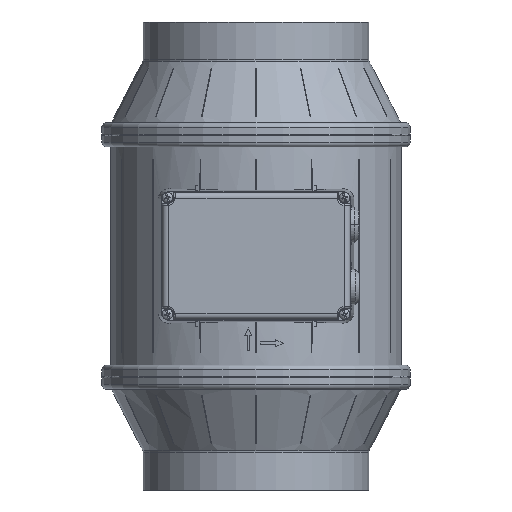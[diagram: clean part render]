
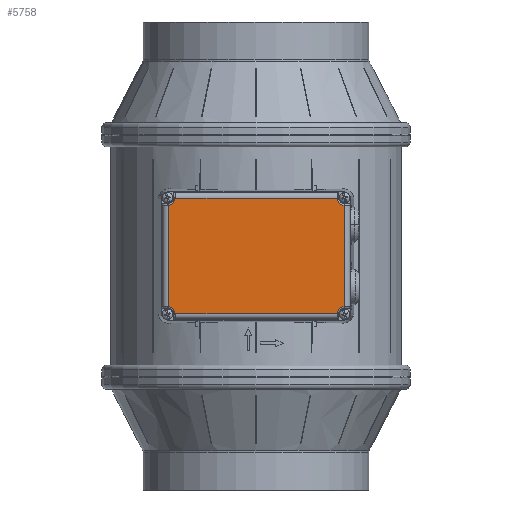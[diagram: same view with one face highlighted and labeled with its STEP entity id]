
A CAD part, front view. The second image highlights one B-rep face of the part: STEP entity #5758.
In plain terms, the highlighted planar face has unit normal (0, -1, 0).
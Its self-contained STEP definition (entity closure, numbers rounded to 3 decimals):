
#5758 = ADVANCED_FACE ( 'NONE', ( #62047 ), #67983, .F. ) ;
#11528 = AXIS2_PLACEMENT_3D ( 'NONE', #46336, #46337, #46338 ) ;
#11604 = AXIS2_PLACEMENT_3D ( 'NONE', #47354, #47355, #47356 ) ;
#17998 = VERTEX_POINT ( 'NONE', #44780 ) ;
#18001 = VERTEX_POINT ( 'NONE', #44783 ) ;
#18022 = VERTEX_POINT ( 'NONE', #44804 ) ;
#19384 = EDGE_CURVE ( 'NONE', #17998, #18001, #35673, .T. ) ;
#19613 = EDGE_CURVE ( 'NONE', #18001, #20283, #35794, .T. ) ;
#19681 = EDGE_CURVE ( 'NONE', #20291, #20300, #35829, .T. ) ;
#19697 = EDGE_CURVE ( 'NONE', #20300, #17998, #35835, .T. ) ;
#19754 = EDGE_CURVE ( 'NONE', #20312, #20291, #35862, .T. ) ;
#19784 = EDGE_CURVE ( 'NONE', #18022, #20312, #35873, .T. ) ;
#19786 = EDGE_CURVE ( 'NONE', #20317, #18022, #35876, .T. ) ;
#19789 = EDGE_CURVE ( 'NONE', #20283, #20317, #35877, .T. ) ;
#20283 = VERTEX_POINT ( 'NONE', #53167 ) ;
#20291 = VERTEX_POINT ( 'NONE', #53181 ) ;
#20300 = VERTEX_POINT ( 'NONE', #53197 ) ;
#20312 = VERTEX_POINT ( 'NONE', #53219 ) ;
#20317 = VERTEX_POINT ( 'NONE', #53229 ) ;
#20696 = EDGE_LOOP ( 'NONE', ( #21089, #21090, #21091, #21092, #21093, #21094, #21095, #21096 ) ) ;
#21089 = ORIENTED_EDGE ( 'NONE', *, *, #19786, .T. ) ;
#21090 = ORIENTED_EDGE ( 'NONE', *, *, #19784, .T. ) ;
#21091 = ORIENTED_EDGE ( 'NONE', *, *, #19754, .T. ) ;
#21092 = ORIENTED_EDGE ( 'NONE', *, *, #19681, .T. ) ;
#21093 = ORIENTED_EDGE ( 'NONE', *, *, #19697, .T. ) ;
#21094 = ORIENTED_EDGE ( 'NONE', *, *, #19384, .T. ) ;
#21095 = ORIENTED_EDGE ( 'NONE', *, *, #19613, .T. ) ;
#21096 = ORIENTED_EDGE ( 'NONE', *, *, #19789, .T. ) ;
#35673 = CIRCLE ( 'NONE', #11528, 5. ) ;
#35794 = LINE ( 'NONE', #47266, #35797 ) ;
#35797 = VECTOR ( 'NONE', #47269, 1000. ) ;
#35829 = CIRCLE ( 'NONE', #11604, 5. ) ;
#35835 = LINE ( 'NONE', #47376, #35838 ) ;
#35838 = VECTOR ( 'NONE', #47377, 1000. ) ;
#35861 = VECTOR ( 'NONE', #47455, 1000. ) ;
#35862 = LINE ( 'NONE', #47454, #35861 ) ;
#35873 = CIRCLE ( 'NONE', #47995, 5. ) ;
#35876 = LINE ( 'NONE', #47482, #35878 ) ;
#35877 = CIRCLE ( 'NONE', #47996, 5. ) ;
#35878 = VECTOR ( 'NONE', #47489, 1000. ) ;
#44780 = CARTESIAN_POINT ( 'NONE',  ( -53.516, -130.55, 170.117 ) ) ;
#44783 = CARTESIAN_POINT ( 'NONE',  ( -58.103, -130.55, 165.529 ) ) ;
#44804 = CARTESIAN_POINT ( 'NONE',  ( 53.516, -130.55, 93.91 ) ) ;
#46336 = CARTESIAN_POINT ( 'NONE',  ( -58.5, -130.55, 170.514 ) ) ;
#46337 = DIRECTION ( 'NONE',  ( 0., 1., 0. ) ) ;
#46338 = DIRECTION ( 'NONE',  ( 0., 0., -1. ) ) ;
#47266 = CARTESIAN_POINT ( 'NONE',  ( -58.103, -130.55, 94.514 ) ) ;
#47269 = DIRECTION ( 'NONE',  ( 0., 0., -1. ) ) ;
#47354 = CARTESIAN_POINT ( 'NONE',  ( 58.5, -130.55, 170.514 ) ) ;
#47355 = DIRECTION ( 'NONE',  ( 0., 1., 0. ) ) ;
#47356 = DIRECTION ( 'NONE',  ( 0., 0., -1. ) ) ;
#47376 = CARTESIAN_POINT ( 'NONE',  ( 57.5, -130.55, 170.117 ) ) ;
#47377 = DIRECTION ( 'NONE',  ( -1., 0., 0. ) ) ;
#47454 = CARTESIAN_POINT ( 'NONE',  ( 58.103, -130.55, 94.514 ) ) ;
#47455 = DIRECTION ( 'NONE',  ( 0., 0., 1. ) ) ;
#47482 = CARTESIAN_POINT ( 'NONE',  ( 57.5, -130.55, 93.91 ) ) ;
#47489 = DIRECTION ( 'NONE',  ( 1., 0., 0. ) ) ;
#47493 = CARTESIAN_POINT ( 'NONE',  ( 58.5, -130.55, 93.514 ) ) ;
#47494 = DIRECTION ( 'NONE',  ( 0., 1., 0. ) ) ;
#47495 = DIRECTION ( 'NONE',  ( 0., 0., -1. ) ) ;
#47497 = CARTESIAN_POINT ( 'NONE',  ( -58.5, -130.55, 93.514 ) ) ;
#47498 = DIRECTION ( 'NONE',  ( 0., 1., 0. ) ) ;
#47499 = DIRECTION ( 'NONE',  ( 0., 0., -1. ) ) ;
#47995 = AXIS2_PLACEMENT_3D ( 'NONE', #47493, #47494, #47495 ) ;
#47996 = AXIS2_PLACEMENT_3D ( 'NONE', #47497, #47498, #47499 ) ;
#53167 = CARTESIAN_POINT ( 'NONE',  ( -58.103, -130.55, 98.498 ) ) ;
#53181 = CARTESIAN_POINT ( 'NONE',  ( 58.103, -130.55, 165.529 ) ) ;
#53197 = CARTESIAN_POINT ( 'NONE',  ( 53.516, -130.55, 170.117 ) ) ;
#53219 = CARTESIAN_POINT ( 'NONE',  ( 58.103, -130.55, 98.498 ) ) ;
#53229 = CARTESIAN_POINT ( 'NONE',  ( -53.516, -130.55, 93.91 ) ) ;
#54839 = AXIS2_PLACEMENT_3D ( 'NONE', #67982, #67987, #67988 ) ;
#62047 = FACE_OUTER_BOUND ( 'NONE', #20696, .T. ) ;
#67982 = CARTESIAN_POINT ( 'NONE',  ( 57.5, -130.55, 94.514 ) ) ;
#67983 = PLANE ( 'NONE',  #54839 ) ;
#67987 = DIRECTION ( 'NONE',  ( 0., 1., 0. ) ) ;
#67988 = DIRECTION ( 'NONE',  ( 0., 0., -1. ) ) ;
